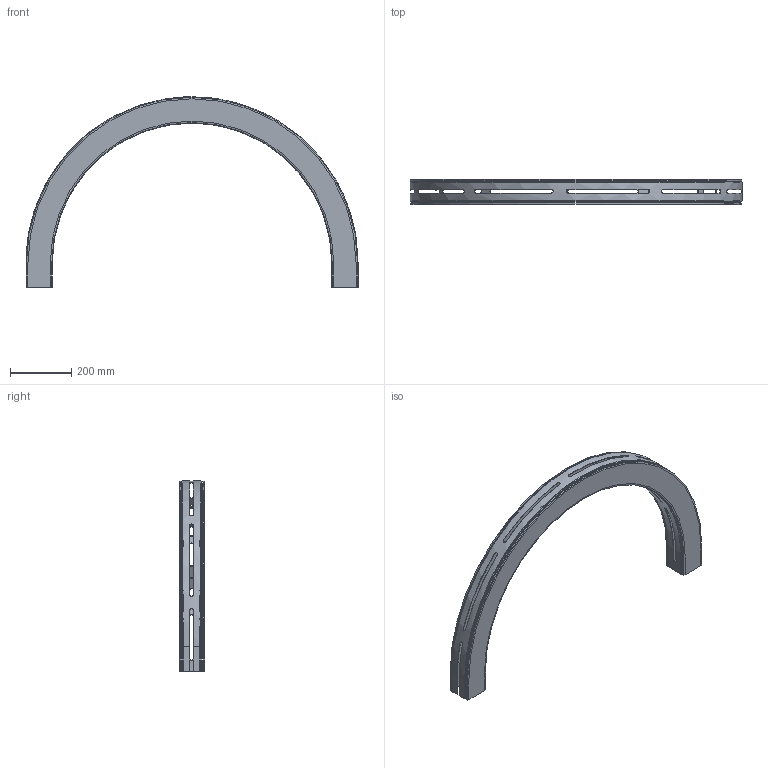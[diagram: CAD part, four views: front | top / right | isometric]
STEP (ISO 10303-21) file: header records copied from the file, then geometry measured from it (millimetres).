
FILE_DESCRIPTION((''),'2;1');
FILE_NAME('C:\Vault Klient\Projekt\Koncept konstruktion\Serie 530 Balk\530-5320.stp','2010-12-01T08:18:19',('Mathias'),(''),'Autodesk Inventor 2011','Autodesk Inventor 2011','');
FILE_SCHEMA(('AUTOMOTIVE_DESIGN { 1 0 10303 214 1 1 1 1 }'));
Length unit declared in the file: millimetre
Products named in the file (1): 530-5320
Bounding box: 1086 x 82 x 623 mm (x, y, z)
Volume: 2503987.3 mm3; surface area: 1194111.8 mm2
Topology: 2 solids, 2 shells, 195 faces, 554 edges, 364 vertices
Faces by surface type: plane 123, bspline 34, cylinder 30, torus 4, cone 4
Entity records: 7518 total; most frequent: CARTESIAN_POINT 2448, ORIENTED_EDGE 1108, DIRECTION 926, EDGE_CURVE 554, VECTOR 370, LINE 370, VERTEX_POINT 364, AXIS2_PLACEMENT_3D 278
